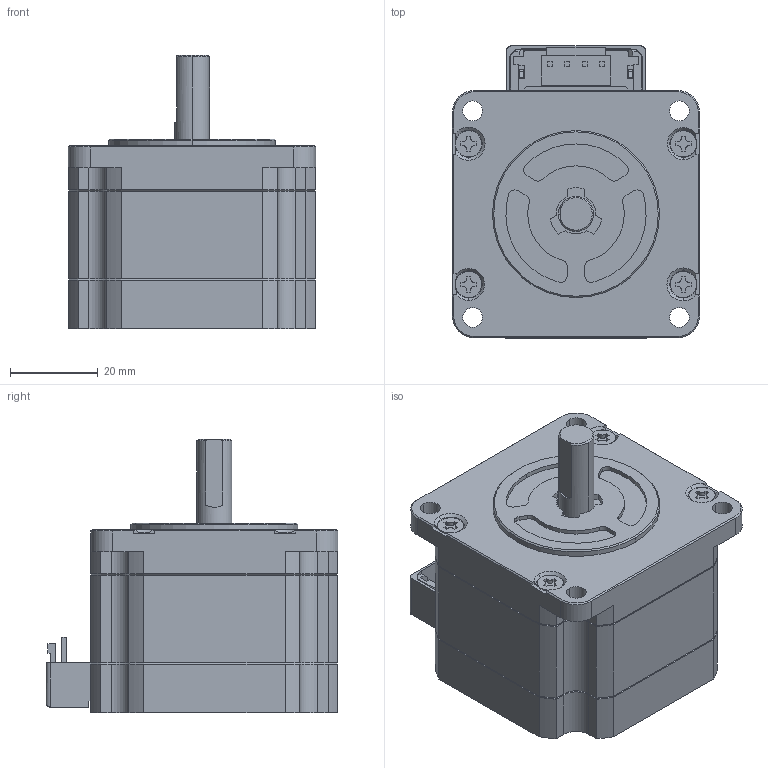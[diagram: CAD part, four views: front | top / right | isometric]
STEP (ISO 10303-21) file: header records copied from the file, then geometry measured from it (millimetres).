
FILE_DESCRIPTION (( 'STEP AP203' ), '1' );
FILE_NAME ('SM2561C10B41.STEP', '2021-05-07T07:18:15', ( '' ), ( '' ), 'SwSTEP 2.0', 'SolidWorks 2019', '' );
FILE_SCHEMA (( 'CONFIG_CONTROL_DESIGN' ));
Length unit declared in the file: millimetre
Products named in the file (10): Copy of FRONT COVER^01124134; Copy of OUTPUT SHAFT^01124134; Copy of INSULATOR_REAR^01124134_コネクタタイプ（10.1L）; Copy of CONNECTOR^Copy of TERMINAL_01124134; Copy of STATOR^01124134; Copy of TERMINAL^01124134; Copy of SUBSTRATE^Copy of TERMINAL_01124134; SM2561C10B41; Copy of REAR COVER^01124134; Copy of SCREW^01124134
Assembly tree (12 placements, depth 3):
  SM2561C10B41
    Copy of FRONT COVER^01124134
    Copy of STATOR^01124134
    Copy of INSULATOR_REAR^01124134_コネクタタイプ（10.1L）
    Copy of TERMINAL^01124134
      Copy of SUBSTRATE^Copy of TERMINAL_01124134
      Copy of CONNECTOR^Copy of TERMINAL_01124134
    Copy of REAR COVER^01124134
    Copy of OUTPUT SHAFT^01124134
    Copy of SCREW^01124134  x4
Bounding box: 56.4 x 66.6 x 62.35 mm (x, y, z)
Volume: 138931.4 mm3; surface area: 37577.4 mm2
Topology: 11 solids, 11 shells, 606 faces, 1580 edges, 1018 vertices
Faces by surface type: plane 382, cylinder 155, cone 69
Entity records: 17608 total; most frequent: CARTESIAN_POINT 3007, ORIENTED_EDGE 2812, DIRECTION 2808, EDGE_CURVE 1406, LINE 1014, VECTOR 1014, VERTEX_POINT 904, AXIS2_PLACEMENT_3D 897
